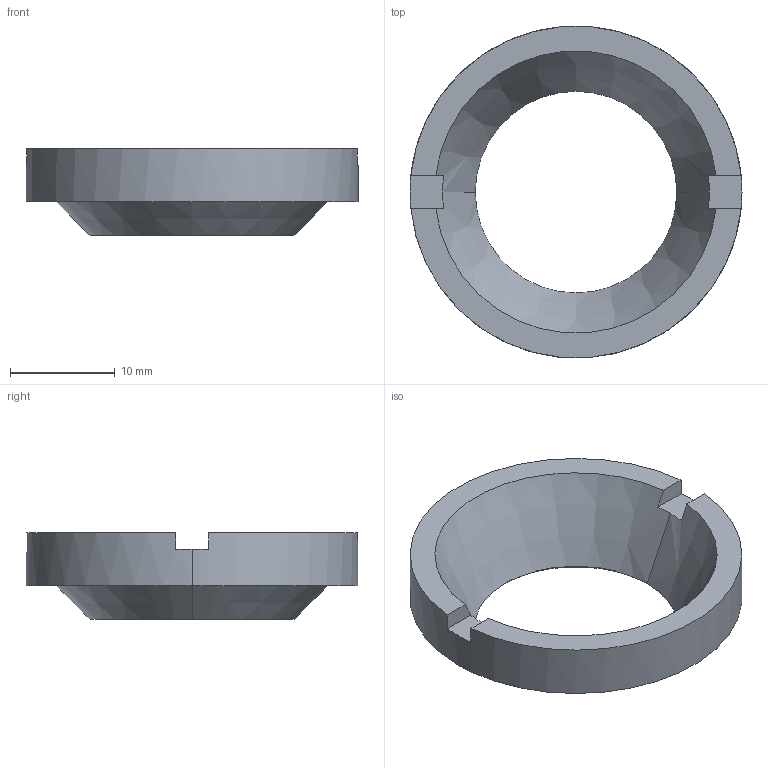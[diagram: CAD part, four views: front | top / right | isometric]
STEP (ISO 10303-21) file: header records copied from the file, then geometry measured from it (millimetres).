
FILE_DESCRIPTION(('Creo Elements/Direct Modeling STEP Export'),'2;1');
FILE_NAME('003-1193(C) (Ti 0mm retainer).stp','2018-05-08T11:29:12',(''),(''),'PTC Creo Elements/Direct Modeling STEP processor for AP214 (Solid Model)','PTC Creo Elements/Direct Modeling 19.0E 27-Jun-2016 (C) Parametric Technology GmbH','');
FILE_SCHEMA(('AUTOMOTIVE_DESIGN { 1 0 10303 214 1 1 1 1 }'));
Length unit declared in the file: millimetre
Products named in the file (1): cg_cell_ret
Bounding box: 31.75 x 31.73 x 8.28 mm (x, y, z)
Volume: 1784.1 mm3; surface area: 1985.4 mm2
Topology: 1 solids, 1 shells, 16 faces, 45 edges, 31 vertices
Faces by surface type: plane 10, cone 4, cylinder 2
Entity records: 532 total; most frequent: CARTESIAN_POINT 126, ORIENTED_EDGE 90, DIRECTION 69, EDGE_CURVE 45, VERTEX_POINT 31, AXIS2_PLACEMENT_3D 26, EDGE_LOOP 18, VECTOR 17
